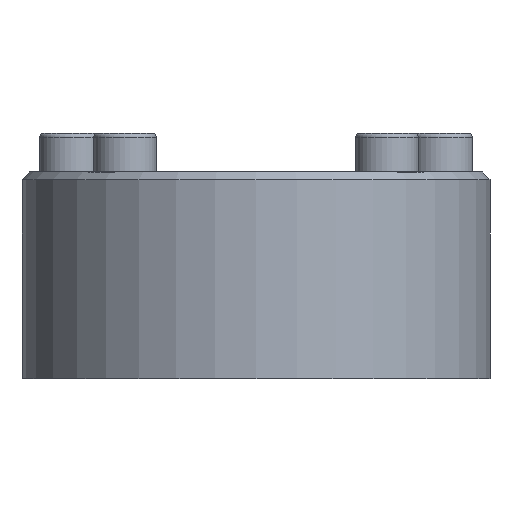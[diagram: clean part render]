
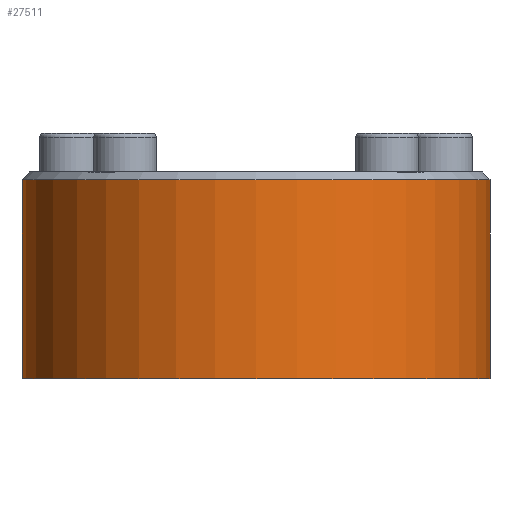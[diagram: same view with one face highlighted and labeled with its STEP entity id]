
A CAD part, front view. The second image highlights one B-rep face of the part: STEP entity #27511.
In plain terms, the highlighted cylindrical face has radius 60 mm (diameter 120 mm), a partial arc.
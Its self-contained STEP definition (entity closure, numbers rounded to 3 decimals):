
#2636=FACE_OUTER_BOUND('',#4120,.T.);
#4120=EDGE_LOOP('',(#18156,#18157,#18158,#18159));
#5806=CIRCLE('',#28998,60.);
#5807=CIRCLE('',#28999,60.);
#5900=LINE('',#35274,#8751);
#5901=LINE('',#35278,#8752);
#8751=VECTOR('',#30141,51.);
#8752=VECTOR('',#30144,51.);
#11602=VERTEX_POINT('',#35272);
#11603=VERTEX_POINT('',#35273);
#11604=VERTEX_POINT('',#35275);
#11605=VERTEX_POINT('',#35277);
#14239=EDGE_CURVE('',#11602,#11603,#5900,.T.);
#14240=EDGE_CURVE('',#11604,#11602,#5806,.T.);
#14241=EDGE_CURVE('',#11605,#11604,#5901,.T.);
#14242=EDGE_CURVE('',#11603,#11605,#5807,.T.);
#18156=ORIENTED_EDGE('',*,*,#14239,.F.);
#18157=ORIENTED_EDGE('',*,*,#14240,.F.);
#18158=ORIENTED_EDGE('',*,*,#14241,.F.);
#18159=ORIENTED_EDGE('',*,*,#14242,.F.);
#25990=CYLINDRICAL_SURFACE('',#28997,60.);
#27511=ADVANCED_FACE('',(#2636),#25990,.T.);
#28997=AXIS2_PLACEMENT_3D('',#35271,#30139,#30140);
#28998=AXIS2_PLACEMENT_3D('',#35276,#30142,#30143);
#28999=AXIS2_PLACEMENT_3D('',#35279,#30145,#30146);
#30139=DIRECTION('center_axis',(0.,0.,
1.));
#30140=DIRECTION('ref_axis',(1.,0.,0.));
#30141=DIRECTION('',(0.,0.,1.));
#30142=DIRECTION('center_axis',(0.,0.,
-1.));
#30143=DIRECTION('ref_axis',(1.,0.,0.));
#30144=DIRECTION('',(0.,0.,-1.));
#30145=DIRECTION('center_axis',(0.,0.,
1.));
#30146=DIRECTION('ref_axis',(-1.,0.,0.));
#35271=CARTESIAN_POINT('Origin',(0.,-215.,-43.25));
#35272=CARTESIAN_POINT('',(-60.,-215.,-43.25));
#35273=CARTESIAN_POINT('',(-60.,-215.,7.75));
#35274=CARTESIAN_POINT('',(-60.,-215.,-43.25));
#35275=CARTESIAN_POINT('',(60.,-215.,-43.25));
#35276=CARTESIAN_POINT('Origin',(0.,-215.,-43.25));
#35277=CARTESIAN_POINT('',(60.,-215.,7.75));
#35278=CARTESIAN_POINT('',(60.,-215.,9.75));
#35279=CARTESIAN_POINT('Origin',(0.,-215.,7.75));
